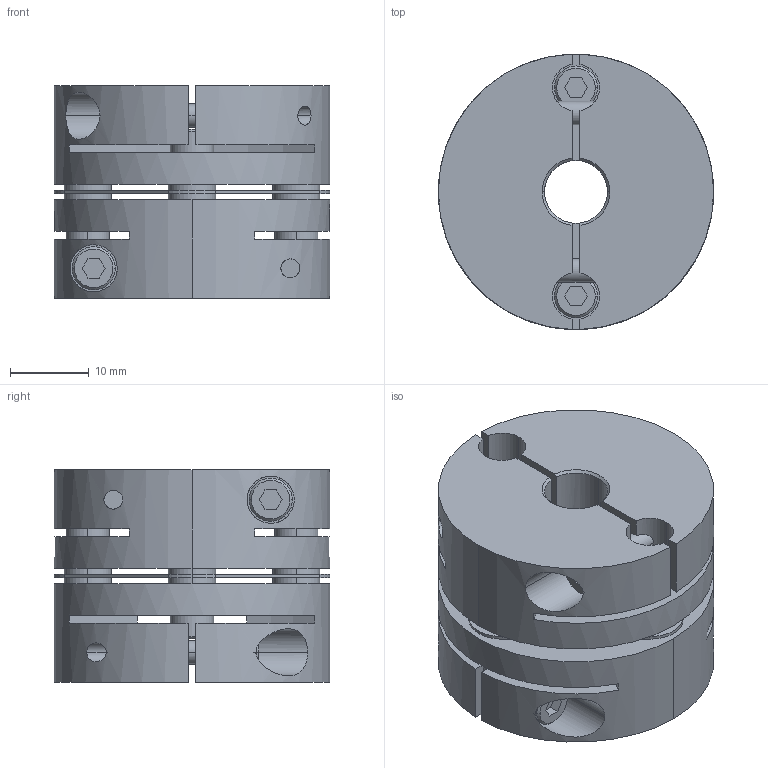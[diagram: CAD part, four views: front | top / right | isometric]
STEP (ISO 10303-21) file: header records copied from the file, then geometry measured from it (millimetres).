
FILE_DESCRIPTION((''),'2;1');
FILE_NAME('LAS-35C-8×16.stp','2011-08-10T16:43:14',(''),(''),'AutoCAD STEP 2000i','AutoCAD 2000i',', , ');
FILE_SCHEMA(('CONFIG_CONTROL_DESIGN'));
Length unit declared in the file: millimetre
Products named in the file (6): LAS-35C-8×14; 忣兜1; LA-3502-D14; LA-3502-D08-1; LA-3502-D08; LAS35-ITA
Assembly tree (5 placements, depth 2):
  LAS-35C-8×14
    忣兜1
    LA-3502-D14
    LA-3502-D08-1
    LA-3502-D08
    LAS35-ITA
Bounding box: 35 x 35 x 27 mm (x, y, z)
Volume: 18870.6 mm3; surface area: 11823.1 mm2
Topology: 1 solids, 1 shells, 236 faces, 624 edges, 408 vertices
Faces by surface type: plane 112, cylinder 96, cone 28
Entity records: 8251 total; most frequent: CARTESIAN_POINT 2068, DIRECTION 1288, ORIENTED_EDGE 1248, EDGE_CURVE 624, AXIS2_PLACEMENT_3D 470, VERTEX_POINT 408, VECTOR 348, LINE 348
